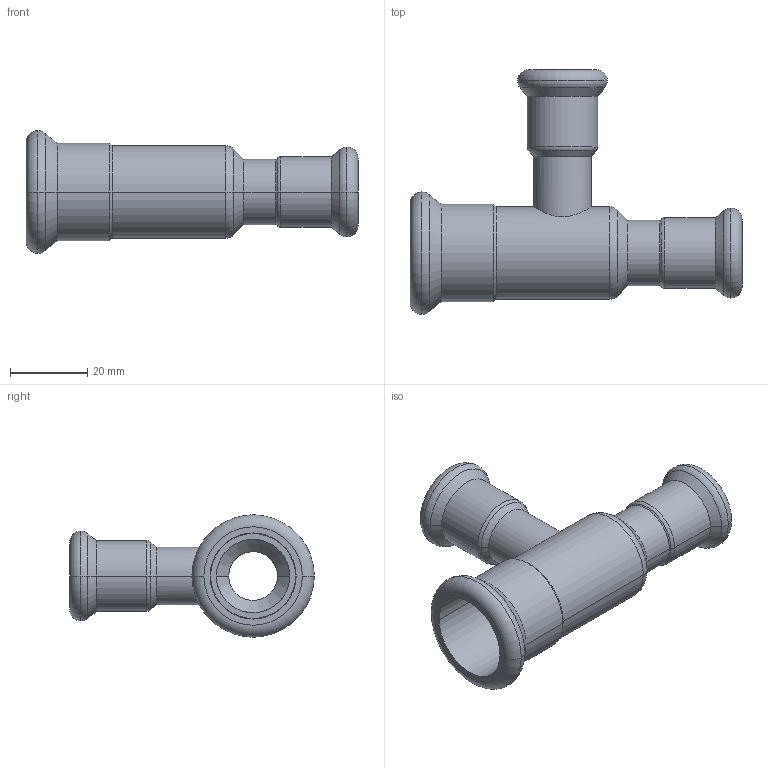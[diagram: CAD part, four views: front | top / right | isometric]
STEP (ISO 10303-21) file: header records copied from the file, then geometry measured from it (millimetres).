
FILE_DESCRIPTION(('CoCreate Modeling STEP Export'),'2;1');
FILE_NAME('C1416 22x15x15.stp','2014-11-12T11:02:48',(''),(''),'CoCreate Modeling STEP processor for AP214 (Solid Model)','CoCreate Modeling 17.00A 17-Jun-2010 (C) Parametric Technology GmbH','');
FILE_SCHEMA(('AUTOMOTIVE_DESIGN { 1 0 10303 214 1 1 1 1 }'));
Length unit declared in the file: millimetre
Products named in the file (2): C1416_22x15x15
Assembly tree (1 placements, depth 2):
  C1416_22x15x15
    C1416_22x15x15
Bounding box: 86 x 63.35 x 31.7 mm (x, y, z)
Volume: 14311.8 mm3; surface area: 16091.1 mm2
Topology: 1 solids, 1 shells, 76 faces, 160 edges, 92 vertices
Faces by surface type: cylinder 32, torus 18, cone 16, plane 10
Entity records: 2651 total; most frequent: CARTESIAN_POINT 1220, ORIENTED_EDGE 320, DIRECTION 256, EDGE_CURVE 160, AXIS2_PLACEMENT_3D 104, VERTEX_POINT 92, EDGE_LOOP 86, FACE_OUTER_BOUND 76
